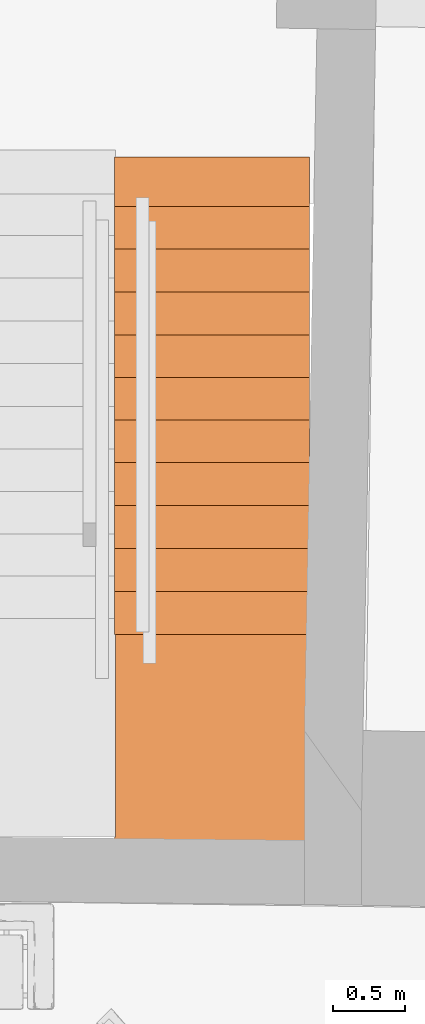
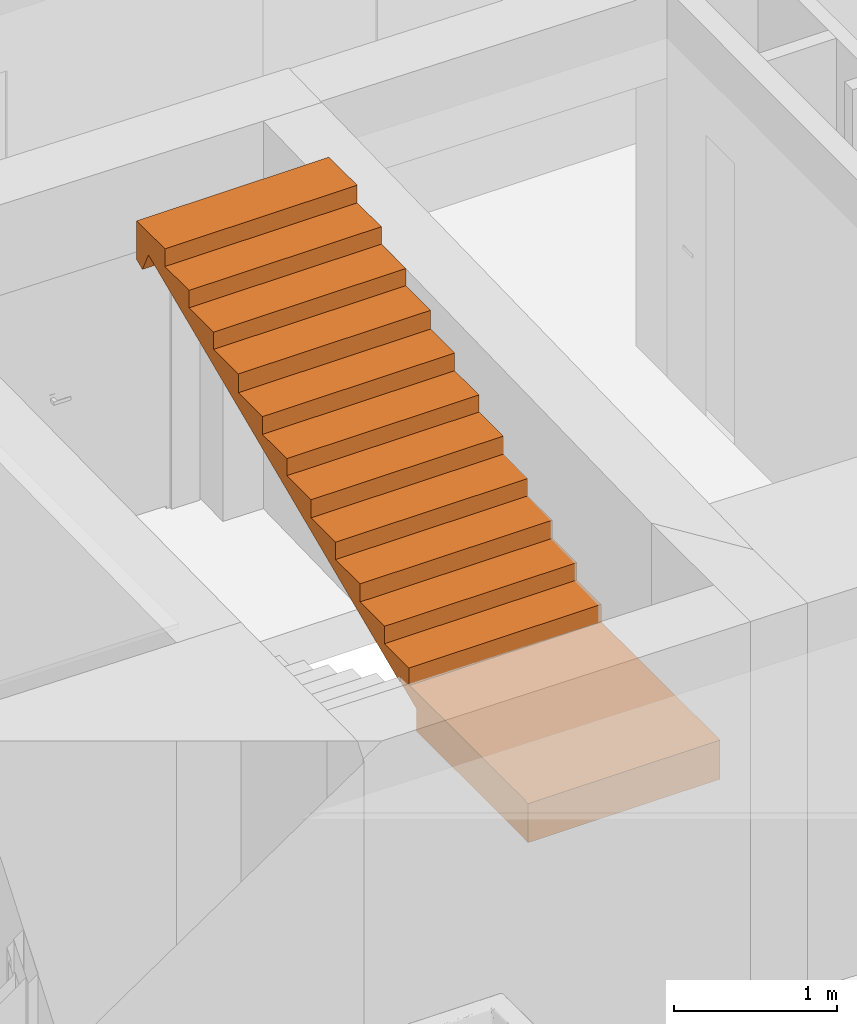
# One storey, part 19 of 19: 1 proxy.
"""IFC2X3 building model written with IfcOpenShell, lengths in millimetres."""

from ifc_helpers import new_model, entity, si_unit, converted_unit, derived_unit, direction, frame, origin, place, context, subcontext, project, spatial, faceted_brep, source, transform, mapped, type_object, type_shapes, element, save


model = new_model("IFC2X3")

# Units and contexts
model_context = context("Model", 3, precision=0.01, world=origin(), true_north=direction((6.12303176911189e-17, 1.0)))
context_of_model = context(None, 3, precision=0.01, world=origin(), true_north=direction((6.12303176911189e-17, 1.0)))
body_context = subcontext(model_context, "Body", "Model", "MODEL_VIEW")
ifc_project = project(units=[si_unit("LENGTHUNIT", "METRE", prefix="MILLI"), si_unit("AREAUNIT", "SQUARE_METRE"), si_unit("VOLUMEUNIT", "CUBIC_METRE"), converted_unit("PLANEANGLEUNIT", "DEGREE", entity("IfcRatioMeasure", 0.0174532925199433), si_unit("PLANEANGLEUNIT", "RADIAN"), dimensions=[0, 0, 0, 0, 0, 0, 0]), si_unit("MASSUNIT", "GRAM", prefix="KILO"), derived_unit("MASSDENSITYUNIT", [(si_unit("MASSUNIT", "GRAM", prefix="KILO"), 1), (si_unit("LENGTHUNIT", "METRE"), -3)]), si_unit("TIMEUNIT", "SECOND"), si_unit("FREQUENCYUNIT", "HERTZ"), si_unit("THERMODYNAMICTEMPERATUREUNIT", "DEGREE_CELSIUS"), derived_unit("THERMALTRANSMITTANCEUNIT", [(si_unit("MASSUNIT", "GRAM", prefix="KILO"), 1), (si_unit("THERMODYNAMICTEMPERATUREUNIT", "KELVIN"), -1), (si_unit("TIMEUNIT", "SECOND"), -3)]), derived_unit("VOLUMETRICFLOWRATEUNIT", [(si_unit("LENGTHUNIT", "METRE"), 3), (si_unit("TIMEUNIT", "SECOND"), -1)]), si_unit("ELECTRICCURRENTUNIT", "AMPERE"), si_unit("ELECTRICVOLTAGEUNIT", "VOLT"), si_unit("POWERUNIT", "WATT"), si_unit("FORCEUNIT", "NEWTON", prefix="KILO"), si_unit("ILLUMINANCEUNIT", "LUX"), si_unit("LUMINOUSFLUXUNIT", "LUMEN"), si_unit("LUMINOUSINTENSITYUNIT", "CANDELA"), derived_unit("USERDEFINED", [(si_unit("MASSUNIT", "GRAM", prefix="KILO"), -1), (si_unit("LENGTHUNIT", "METRE"), -2), (si_unit("TIMEUNIT", "SECOND"), 3), (si_unit("LUMINOUSFLUXUNIT", "LUMEN"), 1)]), derived_unit("LINEARVELOCITYUNIT", [(si_unit("LENGTHUNIT", "METRE"), 1), (si_unit("TIMEUNIT", "SECOND"), -1)]), si_unit("PRESSUREUNIT", "PASCAL"), derived_unit("USERDEFINED", [(si_unit("LENGTHUNIT", "METRE"), -2), (si_unit("MASSUNIT", "GRAM", prefix="KILO"), 1), (si_unit("TIMEUNIT", "SECOND"), -2)])], contexts=[model_context, context_of_model])

# Site, building, storey, space
site_placement = place(None, frame((121442.264707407, 135347.995453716, -1800.0)))
site = spatial("IfcSite", under=ifc_project, at=site_placement, Name="Surface", CompositionType="ELEMENT")
building_placement = place(site_placement, origin())
building = spatial("IfcBuilding", under=site, at=building_placement, CompositionType="ELEMENT")
storey_placement = place(building_placement, frame((0.0, 0.0, 5125.0)))
storey = spatial("IfcBuildingStorey", under=building, at=storey_placement, Name="2 korrus", CompositionType="ELEMENT", Elevation=5125.00000000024)
space_placement = place(storey_placement, origin())
space = spatial("IfcSpace", under=storey, at=space_placement, Name="220", CompositionType="ELEMENT", InteriorOrExteriorSpace="INTERNAL")

# Proxy
building_element_proxy_type = type_object("IfcBuildingElementProxyType", Name="Stairs23", PredefinedType="NOTDEFINED")
shared_shape = source(origin(), body_context, "Body", "Brep", [
    faceted_brep([(1359.60146135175, 4444.8087021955, 1744.46921130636), (1359.60146135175, 4444.8087021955, 1612.68026029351), (1359.60146135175, 4149.8087021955, 1612.68026029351), (1359.60146135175, 4149.8087021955, 1482.68026029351), (1359.60146135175, 3849.8087021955, 1482.68026029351), (1359.60146135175, 3849.8087021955, 1353.93026029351), (1359.60146135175, 3546.5749774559, 1353.93026029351), (1359.60146135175, 3546.5749774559, 1213.68026029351), (1359.60146135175, 3251.5749774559, 1213.68026029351), (1359.60146135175, 3251.5749774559, 1081.18026029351), (1359.60146135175, 2952.82497745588, 1081.18026029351), (1359.60146135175, 2952.82497745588, 953.680260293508), (1359.60146135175, 2722.1034305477, 953.680260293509), (1359.60146135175, 2656.05669861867, 953.680260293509), (1359.60146135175, 2656.05669861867, 818.680260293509), (1359.60146135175, 2356.05669861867, 818.68026029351), (1359.60146135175, 2356.05669861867, 688.680260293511), (1359.60146135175, 2056.05669861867, 688.680260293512), (1359.60146135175, 2056.05669861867, 553.680260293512), (1359.60146135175, 1756.05669861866, 553.680260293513), (1359.60146135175, 1756.05669861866, 423.680260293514), (1359.60146135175, 1456.05669861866, 423.680260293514), (1359.60146135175, 1456.05669861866, 292.430260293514), (1359.60146135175, 734.710844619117, 292.430260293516), (1359.60146135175, 0.0, 292.430260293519), (1359.60146135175, 0.0, 0.0), (1359.60146135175, 734.710844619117, 0.0), (1359.60146135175, 1374.55105924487, 0.0), (1359.60146135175, 1374.55105924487, 167.430260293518), (1359.60146135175, 2722.1034305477, 747.859448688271), (1359.60146135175, 4646.03901121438, 1576.55330236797), (1359.60146135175, 4720.56210616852, 1423.75831449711), (1359.60146135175, 4790.6169341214, 1453.93292425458), (1359.60146135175, 4790.6169341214, 1744.46921130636), (0.0, 0.0, 0.0), (0.0, 0.0, 292.430260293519), (0.0, 41.4888289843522, 292.430260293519), (0.0, 41.4888289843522, 0.0), (0.0, 4444.8087021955, 1744.46921130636), (0.0, 4444.8087021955, 1612.68026029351), (0.0, 4149.8087021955, 1612.68026029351), (0.0, 4149.8087021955, 1482.68026029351), (0.0, 3849.8087021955, 1482.68026029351), (0.0, 3849.8087021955, 1353.93026029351), (0.0, 3546.5749774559, 1353.93026029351), (0.0, 3546.5749774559, 1213.68026029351), (0.0, 3251.5749774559, 1213.68026029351), (0.0, 3251.5749774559, 1081.18026029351), (0.0, 2952.82497745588, 1081.18026029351), (0.0, 2952.82497745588, 953.680260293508), (0.0, 2656.05669861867, 953.680260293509), (1358.41254311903, 2656.05669861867, 953.680260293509), (0.0, 2656.05669861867, 818.680260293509), (1358.41254311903, 2656.05669861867, 818.680260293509), (0.0, 2356.05669861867, 818.68026029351), (1353.0121931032, 2356.05669861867, 818.68026029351), (0.0, 2356.05669861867, 688.680260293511), (1353.0121931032, 2356.05669861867, 688.680260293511), (0.0, 2056.05669861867, 688.680260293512), (1347.61184308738, 2056.05669861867, 688.680260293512), (0.0, 2056.05669861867, 553.680260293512), (1347.61184308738, 2056.05669861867, 553.680260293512), (0.0, 1756.05669861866, 553.680260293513), (1342.21149307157, 1756.05669861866, 553.680260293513), (0.0, 1756.05669861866, 423.680260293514), (1342.21149307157, 1756.05669861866, 423.680260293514), (0.0, 1456.05669861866, 423.680260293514), (1336.81114305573, 1456.05669861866, 423.680260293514), (0.0, 1456.05669861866, 292.430260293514), (4.87107085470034, 1456.05669861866, 292.430260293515), (1336.81114305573, 1456.05669861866, 292.430260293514), (4.87107085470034, 41.4888289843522, 292.430260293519), (4.87107085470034, 41.4888289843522, 0.0), (4.87107085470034, 1374.55105924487, 0.0), (1335.34394645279, 1374.55105924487, 0.0), (4.87107085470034, 1374.55105924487, 167.430260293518), (1335.34394645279, 1374.55105924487, 167.430260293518), (4.87107085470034, 1566.82090667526, 250.246359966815), (0.0, 1566.82090667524, 250.246359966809), (0.0, 4646.03901121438, 1576.55330236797), (0.0, 4720.56210616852, 1423.75831449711), (0.0, 4790.6169341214, 1453.93292425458), (0.0, 4790.6169341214, 1744.46921130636), (4.87107085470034, 1566.82090667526, 292.430260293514), (0.0, 1566.82090667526, 292.430260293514)], [[[0, 1, 2, 3, 4, 5, 6, 7, 8, 9, 10, 11, 12, 13, 14, 15, 16, 17, 18, 19, 20, 21, 22, 23, 24, 25, 26, 27, 28, 29, 30, 31, 32, 33]], [[34, 35, 36, 37]], [[1, 0, 38, 39]], [[2, 1, 39, 40]], [[3, 2, 40, 41]], [[4, 3, 41, 42]], [[5, 4, 42, 43]], [[6, 5, 43, 44]], [[7, 6, 44, 45]], [[8, 7, 45, 46]], [[9, 8, 46, 47]], [[10, 9, 47, 48]], [[11, 10, 48, 49]], [[13, 12, 11, 49, 50, 51]], [[14, 13, 51, 50, 52, 53]], [[15, 14, 53, 52, 54, 55]], [[16, 15, 55, 54, 56, 57]], [[17, 16, 57, 56, 58, 59]], [[18, 17, 59, 58, 60, 61]], [[19, 18, 61, 60, 62, 63]], [[20, 19, 63, 62, 64, 65]], [[21, 20, 65, 64, 66, 67]], [[22, 21, 67, 66, 68, 69, 70]], [[24, 23, 22, 70, 69, 71, 36, 35]], [[25, 24, 35, 34]], [[27, 26, 25, 34, 37, 72, 73, 74]], [[28, 27, 74, 73, 75, 76]], [[30, 29, 28, 76, 75, 77, 78, 79]], [[31, 30, 79, 80]], [[32, 31, 80, 81]], [[0, 33, 82, 38]], [[33, 32, 81, 82]], [[69, 83, 77, 75, 73, 72, 71]], [[83, 69, 68, 84]], [[71, 72, 37, 36]], [[77, 83, 84, 78]], [[38, 82, 81, 80, 79, 78, 84, 68, 66, 64, 62, 60, 58, 56, 54, 52, 50, 49, 48, 47, 46, 45, 44, 43, 42, 41, 40, 39]]]),
])
type_shapes(building_element_proxy_type, [shared_shape])
proxy_placement = place(space_placement, frame((-107984.292341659, -127071.877381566, 1445.53078869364)))
element("IfcBuildingElementProxy", 1, at=proxy_placement, inside=space, type_object=building_element_proxy_type, Name="Stairs23:Stairs23", ObjectType="Stairs23", context=body_context, shape_type="MappedRepresentation", body=[
    mapped(shared_shape, transform((0.0, 0.0, 0.0), scale=1.0)),
])

save(model, "model.ifc")
